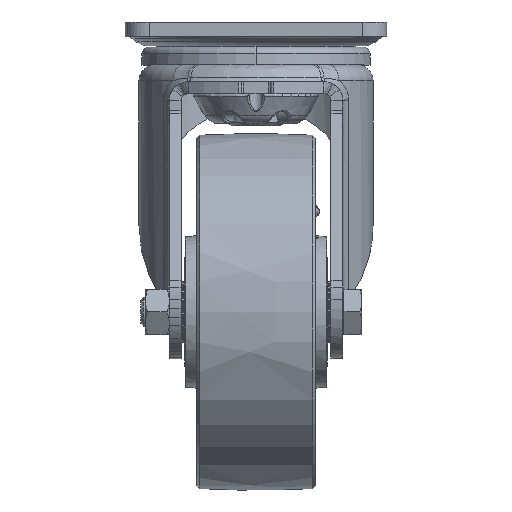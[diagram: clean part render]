
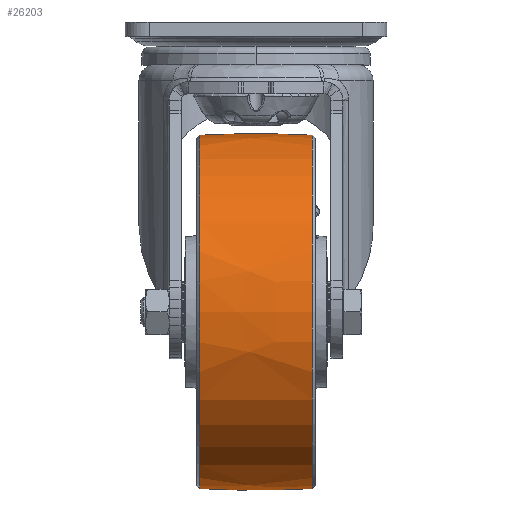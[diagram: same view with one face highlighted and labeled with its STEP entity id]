
A CAD part, top view. The second image highlights one B-rep face of the part: STEP entity #26203.
In plain terms, the highlighted free-form (B-spline) face has degree [3, 3] with [7, 4] control points.
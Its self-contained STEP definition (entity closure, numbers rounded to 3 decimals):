
#794 = CARTESIAN_POINT ( 'NONE',  ( -23.75, 74.373, 0. ) ) ;
#3528 = CARTESIAN_POINT ( 'NONE',  ( 8.241, -46.294, -75.226 ) ) ;
#6712 = DIRECTION ( 'NONE',  ( 0., -1., 0. ) ) ;
#7178 = CARTESIAN_POINT ( 'NONE',  ( -23.75, 0., 0. ) ) ;
#7526 = FACE_OUTER_BOUND ( 'NONE', #28702, .T. ) ;
#8746 = CARTESIAN_POINT ( 'NONE',  ( 8.241, -77.985, -41.479 ) ) ;
#9193 = CARTESIAN_POINT ( 'NONE',  ( 8.241, 75.078, 4.724 ) ) ;
#10074 = VERTEX_POINT ( 'NONE', #36659 ) ;
#10292 = CARTESIAN_POINT ( 'NONE',  ( -24.699, -74.175, 4.667 ) ) ;
#11187 = ORIENTED_EDGE ( 'NONE', *, *, #46174, .F. ) ;
#13720 = CARTESIAN_POINT ( 'NONE',  ( 8.241, 0., -75.226 ) ) ;
#14170 = CARTESIAN_POINT ( 'NONE',  ( 8.241, 46.294, -75.226 ) ) ;
#15419 = CIRCLE ( 'NONE', #60473, 74.373 ) ;
#18736 = EDGE_CURVE ( 'NONE', #10074, #23885, #23642, .T. ) ;
#18905 = CARTESIAN_POINT ( 'NONE',  ( -8.241, -46.294, -75.226 ) ) ;
#19580 = CARTESIAN_POINT ( 'NONE',  ( -8.241, 0., -75.226 ) ) ;
#20382 = CARTESIAN_POINT ( 'NONE',  ( 23.75, 74.373, 0. ) ) ;
#21455 = CIRCLE ( 'NONE', #28057, 450. ) ;
#22260 = AXIS2_PLACEMENT_3D ( 'NONE', #37395, #47566, #58413 ) ;
#23490 = CARTESIAN_POINT ( 'NONE',  ( 0., 375., 0. ) ) ;
#23642 = CIRCLE ( 'NONE', #58096, 74.373 ) ;
#23885 = VERTEX_POINT ( 'NONE', #20382 ) ;
#24870 = ORIENTED_EDGE ( 'NONE', *, *, #42338, .T. ) ;
#25190 = CARTESIAN_POINT ( 'NONE',  ( -24.699, -77.047, -40.98 ) ) ;
#25618 = DIRECTION ( 'NONE',  ( 1., 0., 0. ) ) ;
#25653 = CARTESIAN_POINT ( 'NONE',  ( 24.699, -74.175, 4.667 ) ) ;
#26203 = ADVANCED_FACE ( 'NONE', ( #7526 ), #54355, .T. ) ;
#26204 = ORIENTED_EDGE ( 'NONE', *, *, #18736, .F. ) ;
#28057 = AXIS2_PLACEMENT_3D ( 'NONE', #23490, #28684, #64950 ) ;
#28684 = DIRECTION ( 'NONE',  ( 0., 0., -1. ) ) ;
#28702 = EDGE_LOOP ( 'NONE', ( #49375, #11187, #26204, #24870 ) ) ;
#29509 = CARTESIAN_POINT ( 'NONE',  ( -24.699, 45.737, -74.322 ) ) ;
#30032 = EDGE_CURVE ( 'NONE', #34655, #51550, #15419, .T. ) ;
#31494 = CARTESIAN_POINT ( 'NONE',  ( 23.75, 0., 0. ) ) ;
#34517 = CARTESIAN_POINT ( 'NONE',  ( 24.699, -45.737, -74.322 ) ) ;
#34655 = VERTEX_POINT ( 'NONE', #52886 ) ;
#36659 = CARTESIAN_POINT ( 'NONE',  ( 23.75, -74.373, 0. ) ) ;
#36740 = DIRECTION ( 'NONE',  ( 0., -1., 0. ) ) ;
#37395 = CARTESIAN_POINT ( 'NONE',  ( 0., -375., 0. ) ) ;
#39723 = CARTESIAN_POINT ( 'NONE',  ( 24.699, -77.047, -40.98 ) ) ;
#39946 = CARTESIAN_POINT ( 'NONE',  ( -8.241, 77.985, -41.479 ) ) ;
#40393 = CARTESIAN_POINT ( 'NONE',  ( -8.241, 75.078, 4.724 ) ) ;
#40614 = CARTESIAN_POINT ( 'NONE',  ( -8.241, -75.078, 4.724 ) ) ;
#42338 = EDGE_CURVE ( 'NONE', #10074, #34655, #21455, .T. ) ;
#44720 = CARTESIAN_POINT ( 'NONE',  ( 24.699, 74.175, 4.667 ) ) ;
#44944 = CARTESIAN_POINT ( 'NONE',  ( -8.241, -77.985, -41.479 ) ) ;
#45182 = CARTESIAN_POINT ( 'NONE',  ( -24.699, 77.047, -40.98 ) ) ;
#45404 = CARTESIAN_POINT ( 'NONE',  ( 24.699, 77.047, -40.98 ) ) ;
#45562 = CIRCLE ( 'NONE', #22260, 450. ) ;
#46174 = EDGE_CURVE ( 'NONE', #23885, #51550, #45562, .T. ) ;
#47566 = DIRECTION ( 'NONE',  ( 0., 0., 1. ) ) ;
#49375 = ORIENTED_EDGE ( 'NONE', *, *, #30032, .T. ) ;
#49955 = CARTESIAN_POINT ( 'NONE',  ( -24.699, 0., -74.322 ) ) ;
#50405 = CARTESIAN_POINT ( 'NONE',  ( 24.699, 0., -74.322 ) ) ;
#50625 = CARTESIAN_POINT ( 'NONE',  ( -8.241, 46.294, -75.226 ) ) ;
#51550 = VERTEX_POINT ( 'NONE', #794 ) ;
#52886 = CARTESIAN_POINT ( 'NONE',  ( -23.75, -74.373, 0. ) ) ;
#54355 =( BOUNDED_SURFACE ( )  B_SPLINE_SURFACE ( 3, 3, ( 
 ( #44720, #9193, #40393, #55409 ),
 ( #45404, #60549, #39946, #45182 ),
 ( #65550, #14170, #50625, #29509 ),
 ( #50405, #13720, #19580, #49955 ),
 ( #34517, #3528, #18905, #55845 ),
 ( #39723, #8746, #44944, #25190 ),
 ( #25653, #61415, #40614, #10292 ) ),
 .UNSPECIFIED., .F., .F., .T. ) 
 B_SPLINE_SURFACE_WITH_KNOTS ( ( 4, 3, 4 ),
 ( 4, 4 ),
 ( 0., 1., 2. ),
 ( 0., 1. ),
 .UNSPECIFIED. ) 
 GEOMETRIC_REPRESENTATION_ITEM ( )  RATIONAL_B_SPLINE_SURFACE ( (
 ( 1.188, 1.187, 1.187, 1.188),
 ( 0.938, 0.937, 0.937, 0.938),
 ( 0.938, 0.937, 0.937, 0.938),
 ( 1.188, 1.187, 1.187, 1.188),
 ( 0.938, 0.937, 0.937, 0.938),
 ( 0.938, 0.937, 0.937, 0.938),
 ( 1.188, 1.187, 1.187, 1.188) ) ) 
 REPRESENTATION_ITEM ( '' )  SURFACE ( )  );
#55409 = CARTESIAN_POINT ( 'NONE',  ( -24.699, 74.175, 4.667 ) ) ;
#55845 = CARTESIAN_POINT ( 'NONE',  ( -24.699, -45.737, -74.322 ) ) ;
#58096 = AXIS2_PLACEMENT_3D ( 'NONE', #31494, #25618, #36740 ) ;
#58413 = DIRECTION ( 'NONE',  ( 0.053, 0.999, 0. ) ) ;
#60473 = AXIS2_PLACEMENT_3D ( 'NONE', #7178, #63952, #6712 ) ;
#60549 = CARTESIAN_POINT ( 'NONE',  ( 8.241, 77.985, -41.479 ) ) ;
#61415 = CARTESIAN_POINT ( 'NONE',  ( 8.241, -75.078, 4.724 ) ) ;
#63952 = DIRECTION ( 'NONE',  ( 1., 0., 0. ) ) ;
#64950 = DIRECTION ( 'NONE',  ( 0.053, -0.999, 0. ) ) ;
#65550 = CARTESIAN_POINT ( 'NONE',  ( 24.699, 45.737, -74.322 ) ) ;
